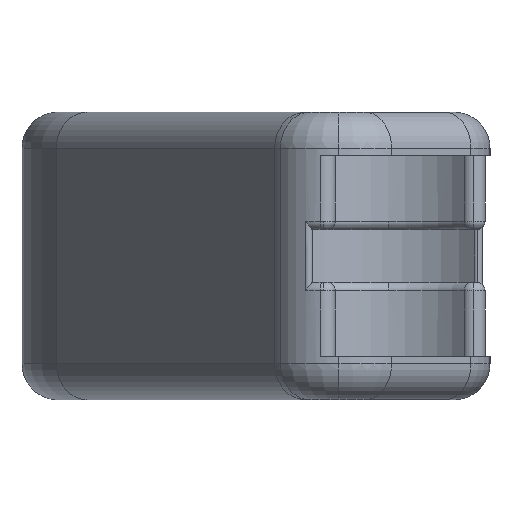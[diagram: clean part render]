
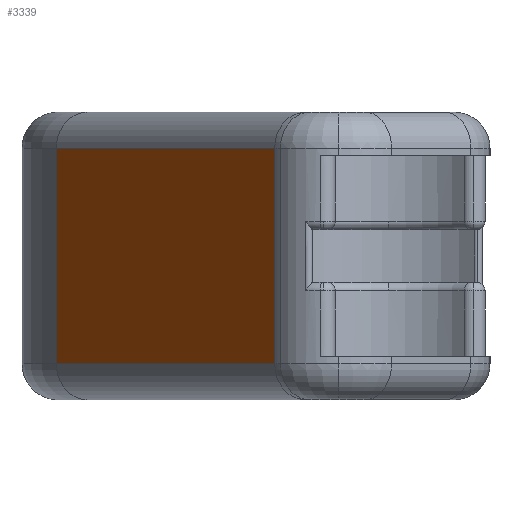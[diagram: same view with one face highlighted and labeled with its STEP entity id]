
A CAD part, left-side view. The second image highlights one B-rep face of the part: STEP entity #3339.
In plain terms, the highlighted planar face has unit normal (-0.516, 0.857, 0).
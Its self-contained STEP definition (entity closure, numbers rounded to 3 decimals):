
#72 = ORIENTED_EDGE ( 'NONE', *, *, #4973, .T. ) ;
#203 = VERTEX_POINT ( 'NONE', #2275 ) ;
#834 = LINE ( 'NONE', #4738, #4906 ) ;
#1629 = VERTEX_POINT ( 'NONE', #2784 ) ;
#1853 = CARTESIAN_POINT ( 'NONE',  ( -29.219, -10.546, 12. ) ) ;
#2007 = AXIS2_PLACEMENT_3D ( 'NONE', #4350, #4312, #5465 ) ;
#2137 = EDGE_LOOP ( 'NONE', ( #72, #3908, #4549, #2416 ) ) ;
#2201 = EDGE_CURVE ( 'NONE', #203, #6792, #6837, .T. ) ;
#2275 = CARTESIAN_POINT ( 'NONE',  ( -29.219, -10.546, 10.5 ) ) ;
#2353 = EDGE_CURVE ( 'NONE', #1629, #6792, #834, .T. ) ;
#2416 = ORIENTED_EDGE ( 'NONE', *, *, #4279, .T. ) ;
#2784 = CARTESIAN_POINT ( 'NONE',  ( -14.077, -1.432, 1.5 ) ) ;
#3339 = ADVANCED_FACE ( 'NONE', ( #4890 ), #5504, .F. ) ;
#3356 = DIRECTION ( 'NONE',  ( 0., 0., -1. ) ) ;
#3462 = DIRECTION ( 'NONE',  ( 0., 0., -1. ) ) ;
#3904 = VECTOR ( 'NONE', #3462, 1000. ) ;
#3908 = ORIENTED_EDGE ( 'NONE', *, *, #2353, .T. ) ;
#4093 = CARTESIAN_POINT ( 'NONE',  ( -29.219, -10.546, 1.5 ) ) ;
#4279 = EDGE_CURVE ( 'NONE', #203, #4484, #5657, .T. ) ;
#4312 = DIRECTION ( 'NONE',  ( 0.516, -0.857, 0. ) ) ;
#4350 = CARTESIAN_POINT ( 'NONE',  ( -14.077, -1.432, 12. ) ) ;
#4484 = VERTEX_POINT ( 'NONE', #6995 ) ;
#4549 = ORIENTED_EDGE ( 'NONE', *, *, #2201, .F. ) ;
#4574 = DIRECTION ( 'NONE',  ( 0.857, 0.516, 0. ) ) ;
#4738 = CARTESIAN_POINT ( 'NONE',  ( -29.219, -10.546, 1.5 ) ) ;
#4823 = VECTOR ( 'NONE', #4574, 1000. ) ;
#4890 = FACE_OUTER_BOUND ( 'NONE', #2137, .T. ) ;
#4906 = VECTOR ( 'NONE', #6983, 1000. ) ;
#4973 = EDGE_CURVE ( 'NONE', #4484, #1629, #6121, .T. ) ;
#5465 = DIRECTION ( 'NONE',  ( 0.857, 0.516, 0. ) ) ;
#5504 = PLANE ( 'NONE',  #2007 ) ;
#5563 = CARTESIAN_POINT ( 'NONE',  ( -14.077, -1.432, 12. ) ) ;
#5616 = CARTESIAN_POINT ( 'NONE',  ( -14.077, -1.432, 10.5 ) ) ;
#5657 = LINE ( 'NONE', #5616, #4823 ) ;
#6121 = LINE ( 'NONE', #5563, #3904 ) ;
#6792 = VERTEX_POINT ( 'NONE', #4093 ) ;
#6837 = LINE ( 'NONE', #1853, #6986 ) ;
#6983 = DIRECTION ( 'NONE',  ( -0.857, -0.516, 0. ) ) ;
#6986 = VECTOR ( 'NONE', #3356, 1000. ) ;
#6995 = CARTESIAN_POINT ( 'NONE',  ( -14.077, -1.432, 10.5 ) ) ;
